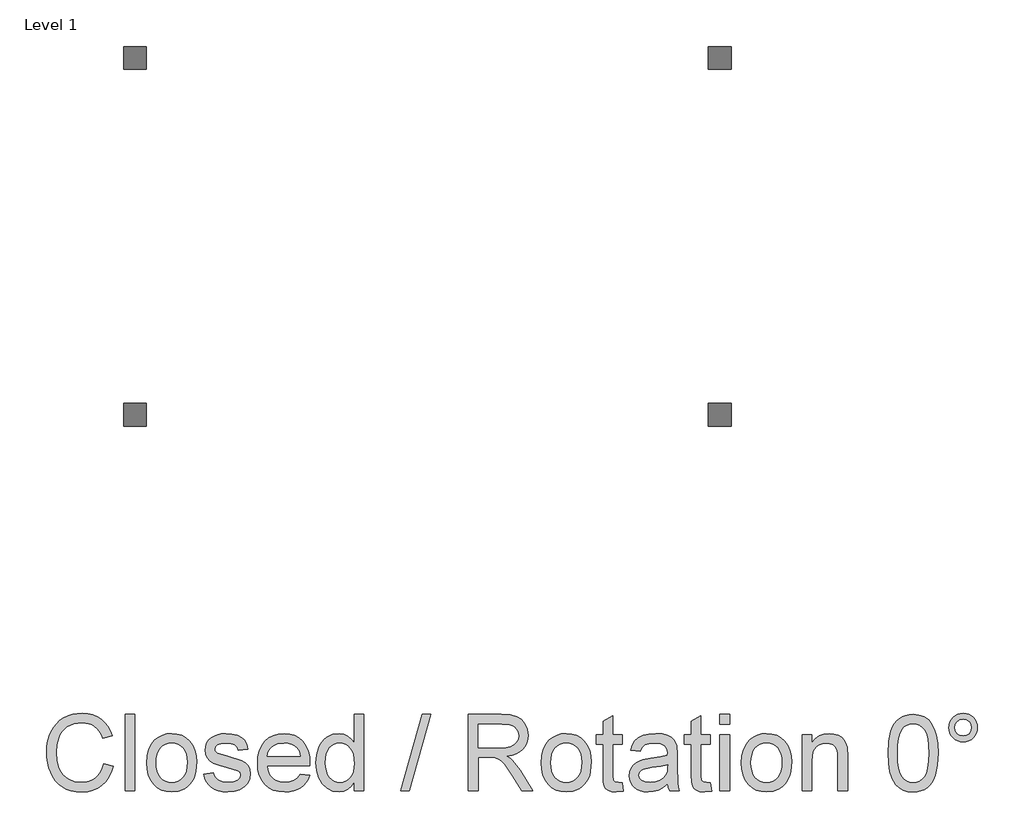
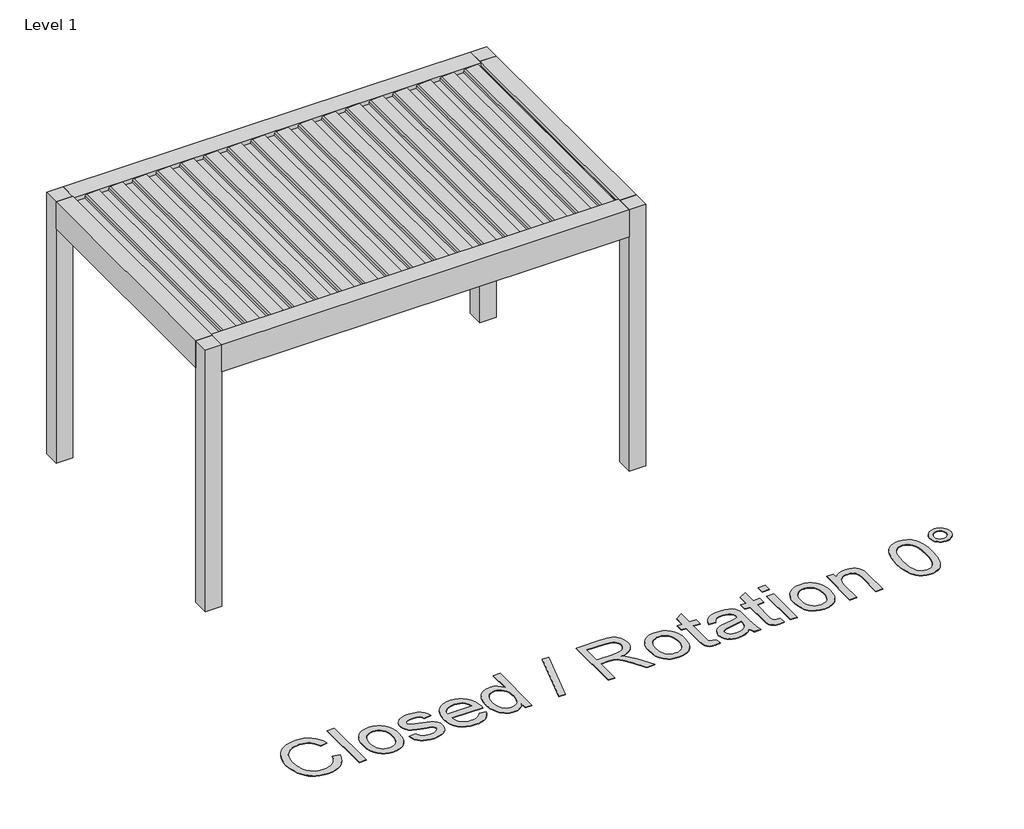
# One storey, part 51 of 69: 2 proxies.
"""IFC4 building model written with IfcOpenShell, lengths in millimetres."""

import ifcopenshell
import ifcopenshell.guid

model = None  # the IFC model being written
_history = None  # IfcOwnerHistory: only IFC2X3 demands one
_inside = {}  # id of a spatial element -> (the spatial element, [elements in it])
_under = {}  # id of a project, library or spatial element -> (it, [spatial elements below it])
_declared = {}  # id of a project -> (the project, [libraries it declares])
_typed = {}  # id of a type object -> (the type object, [elements of that type])
_made_of = {}  # id of a material, layer set ... -> (it, [elements and type objects made of it])


def new_model(schema):
    """Start an empty IFC model of exactly this schema.

    Asked for "IFC4X3", IfcOpenShell would pick the latest addendum, in which some entities
    have other attributes; the version numbers below select the first issue.
    IFC2X3 requires an IfcOwnerHistory on every rooted entity: one is made here for all.
    """
    global model, _history
    if schema == "IFC4X3":
        model = ifcopenshell.file(schema_version=(4, 3, 0, 0))
    else:
        model = ifcopenshell.file(schema=schema)
    _inside.clear()
    _under.clear()
    _declared.clear()
    _typed.clear()
    _made_of.clear()
    _history = None
    if model.schema == "IFC2X3":
        org = make("IfcOrganization", Name="unknown")
        user = make(
            "IfcPersonAndOrganization",
            ThePerson=make("IfcPerson", FamilyName="unknown"),
            TheOrganization=org,
        )
        app = make(
            "IfcApplication",
            ApplicationDeveloper=org,
            Version="unknown",
            ApplicationFullName="unknown",
            ApplicationIdentifier="unknown",
        )
        _history = make(
            "IfcOwnerHistory",
            OwningUser=user,
            OwningApplication=app,
            ChangeAction="ADDED",
            CreationDate=0,
        )
    return model


def make(cls, **values):
    """One entity of the class cls with the attributes given. An attribute that is None is left unset."""
    return model.create_entity(
        cls, **{name: value for name, value in values.items() if value is not None}
    )


def rooted(cls, **values):
    """An entity with a GlobalId (a new one), such as an element, a storey or a relation."""
    return make(cls, GlobalId=ifcopenshell.guid.new(), OwnerHistory=_history, **values)


def si_unit(unit_type, name, prefix=None):
    """IfcSIUnit, for example si_unit("LENGTHUNIT", "METRE", prefix="MILLI")."""
    return make("IfcSIUnit", UnitType=unit_type, Prefix=prefix, Name=name)


def assignment(units):
    """IfcUnitAssignment: the units of a project."""
    return None if units is None else make("IfcUnitAssignment", Units=units)


def point(xyz):
    """IfcCartesianPoint."""
    return None if xyz is None else make("IfcCartesianPoint", Coordinates=xyz)


def direction(xyz):
    """IfcDirection."""
    return None if xyz is None else make("IfcDirection", DirectionRatios=xyz)


def frame(location, z_axis=None, x_axis=None):
    """IfcAxis2Placement3D, a coordinate frame: its origin and axes. An axis left out is left unset."""
    return make(
        "IfcAxis2Placement3D",
        Location=point(location),
        Axis=direction(z_axis),
        RefDirection=direction(x_axis),
    )


def frame_2d(location, x_axis=None):
    """IfcAxis2Placement2D, a coordinate frame in the plane: its origin and x axis."""
    return make(
        "IfcAxis2Placement2D", Location=point(location), RefDirection=direction(x_axis)
    )


def origin():
    """The frame at (0, 0, 0) with its axes left unset."""
    return frame((0.0, 0.0, 0.0))


def origin_with_axes():
    """The frame at (0, 0, 0) with the z axis (0, 0, 1) and the x axis (1, 0, 0) written out."""
    return frame((0.0, 0.0, 0.0), z_axis=(0.0, 0.0, 1.0), x_axis=(1.0, 0.0, 0.0))


def place(relative_to, where):
    """IfcLocalPlacement: puts the frame where relative to a parent placement (None: the world)."""
    return make(
        "IfcLocalPlacement", PlacementRelTo=relative_to, RelativePlacement=where
    )


def context(
    kind, dimensions, precision=None, world=None, true_north=None, identifier=None
):
    """IfcGeometricRepresentationContext, for example the 3D "Model" context."""
    return make(
        "IfcGeometricRepresentationContext",
        ContextIdentifier=identifier,
        ContextType=kind,
        CoordinateSpaceDimension=dimensions,
        Precision=precision,
        WorldCoordinateSystem=world,
        TrueNorth=true_north,
    )


def project(units=None, contexts=None):
    """IfcProject with its units and contexts."""
    return rooted(
        "IfcProject",
        Name="project",
        RepresentationContexts=contexts,
        UnitsInContext=assignment(units),
    )


def spatial(cls, under=None, at=None, **own):
    """A site, building, storey or space (cls), placed at a placement, below another one or the project."""
    s = rooted(cls, ObjectPlacement=at, **own)
    if under is not None:
        _under.setdefault(under.id(), (under, []))[1].append(s)
    return s


def polyline(points):
    """IfcPolyline through the points."""
    return make("IfcPolyline", Points=[point(p) for p in points])


def circle_curve(where, radius):
    """IfcCircle in the frame where."""
    return make("IfcCircle", Position=where, Radius=radius)


def trimmed(basis, trim1, trim2, sense, master):
    """IfcTrimmedCurve: the piece of a basis curve between two trims."""
    return make(
        "IfcTrimmedCurve",
        BasisCurve=basis,
        Trim1=trim1,
        Trim2=trim2,
        SenseAgreement=sense,
        MasterRepresentation=master,
    )


def segment(curve, same_sense, transition):
    """IfcCompositeCurveSegment."""
    return make(
        "IfcCompositeCurveSegment",
        Transition=transition,
        SameSense=same_sense,
        ParentCurve=curve,
    )


def composite_curve(segments, self_intersect=None):
    """IfcCompositeCurve: segments joined end to end."""
    return make("IfcCompositeCurve", Segments=segments, SelfIntersect=self_intersect)


def outline(outer, holes=None, kind="AREA"):
    """IfcArbitraryClosedProfileDef: a profile drawn as a closed curve; with holes, ...WithVoids."""
    if holes is None:
        return make("IfcArbitraryClosedProfileDef", ProfileType=kind, OuterCurve=outer)
    return make(
        "IfcArbitraryProfileDefWithVoids",
        ProfileType=kind,
        OuterCurve=outer,
        InnerCurves=holes,
    )


def extrude(swept, where, along, depth):
    """IfcExtrudedAreaSolid: the profile swept, set in the frame where, extruded along a direction by depth."""
    return make(
        "IfcExtrudedAreaSolid",
        SweptArea=swept,
        Position=where,
        ExtrudedDirection=direction(along),
        Depth=depth,
    )


def shape(context_of_items, identifier, shape_type, items):
    """IfcShapeRepresentation: the items that make up one representation, for example the "Body"."""
    return make(
        "IfcShapeRepresentation",
        ContextOfItems=context_of_items,
        RepresentationIdentifier=identifier,
        RepresentationType=shape_type,
        Items=items,
    )


def source(mapping_origin, context_of_items, identifier, shape_type, items):
    """IfcRepresentationMap: a shape defined once, which mapped items show again and again."""
    return make(
        "IfcRepresentationMap",
        MappingOrigin=mapping_origin,
        MappedRepresentation=shape(context_of_items, identifier, shape_type, items),
    )


def transform(
    local_origin,
    x_axis=None,
    y_axis=None,
    z_axis=None,
    scale=None,
    scale2=None,
    scale3=None,
    uniform=True,
):
    """IfcCartesianTransformationOperator3D, or its non-uniform kind. x_axis, y_axis, z_axis: its Axis1, 2, 3."""
    if uniform:
        return make(
            "IfcCartesianTransformationOperator3D",
            Axis1=direction(x_axis),
            Axis2=direction(y_axis),
            LocalOrigin=point(local_origin),
            Scale=scale,
            Axis3=direction(z_axis),
        )
    return make(
        "IfcCartesianTransformationOperator3DnonUniform",
        Axis1=direction(x_axis),
        Axis2=direction(y_axis),
        LocalOrigin=point(local_origin),
        Scale=scale,
        Axis3=direction(z_axis),
        Scale2=scale2,
        Scale3=scale3,
    )


def mapped(mapping_source, mapping_target):
    """IfcMappedItem: shows the shape of a source again, moved by a transform."""
    return make(
        "IfcMappedItem", MappingSource=mapping_source, MappingTarget=mapping_target
    )


def made_of(thing, what):
    """Note that an element or type object is made of a material, layer set ...; save() writes the relation."""
    if what is not None:
        _made_of.setdefault(what.id(), (what, []))[1].append(thing)
    return thing


def element(
    cls,
    number,
    at=None,
    inside=None,
    cuts=None,
    type_object=None,
    material=None,
    context=None,
    identifier="Body",
    shape_type=None,
    held_by="IfcProductDefinitionShape",
    body=None,
    shapes=None,
    **own,
):
    """One element of the class cls, such as IfcWall. Its Tag is "e" and its number.

    at: its placement. inside: the storey or other place that contains it. cuts: it is an
    opening in that element (IfcRelVoidsElement). A single representation is given by context,
    identifier, shape_type and body (its items); several are given by shapes. held_by: the class
    of the entity that holds the representations. save() writes the other relations.
    """
    e = rooted(cls, Tag="e%d" % number, ObjectPlacement=at, **own)
    if body is not None:
        shapes = [shape(context, identifier, shape_type, body)]
    if shapes is not None:
        e.Representation = make(held_by, Representations=shapes)
    if inside is not None:
        _inside.setdefault(inside.id(), (inside, []))[1].append(e)
    if cuts is not None:
        rooted(
            "IfcRelVoidsElement", RelatingBuildingElement=cuts, RelatedOpeningElement=e
        )
    if type_object is not None:
        _typed.setdefault(type_object.id(), (type_object, []))[1].append(e)
    return made_of(e, material)


def aggregate(whole, parts):
    """IfcRelAggregates: a whole, such as a stair, and the parts it consists of."""
    return rooted("IfcRelAggregates", RelatingObject=whole, RelatedObjects=parts)


def save(model, path):
    """Write the relations noted so far, then the file.

    IfcRelAggregates (storeys below a building ...), IfcRelContainedInSpatialStructure (elements
    in a storey), IfcRelDefinesByType, IfcRelAssociatesMaterial and IfcRelDeclares: one each for
    every whole, place, type object, material and project.
    """
    for whole, parts in _under.values():
        aggregate(whole, parts)
    for where, things in _inside.values():
        rooted(
            "IfcRelContainedInSpatialStructure",
            RelatedElements=things,
            RelatingStructure=where,
        )
    for kind, things in _typed.values():
        rooted("IfcRelDefinesByType", RelatedObjects=things, RelatingType=kind)
    for what, things in _made_of.values():
        rooted("IfcRelAssociatesMaterial", RelatedObjects=things, RelatingMaterial=what)
    for by, libraries in _declared.values():
        rooted("IfcRelDeclares", RelatingContext=by, RelatedDefinitions=libraries)
    model.write(path)


def generic_models_076aa895(model_context):
    return source(origin(), model_context, "Body", "SweptSolid", [
        extrude(outline(composite_curve([segment(polyline([(2458.35, 1573.7338351), (2486.01198, 1576.1539448), (2487.3970364, 1604.9891952), (2506.8911096, 1601.5518641), (2501.6075693, 1491.5547493)]), True, "CONTINUOUS"), segment(trimmed(circle_curve(frame_2d((2486.6248435, 1492.2744212)), 15.0), [point((2501.6075693, 1491.5547493))], [point((2489.2295662, 1477.5023049))], False, "CARTESIAN"), True, "CONTINUOUS"), segment(polyline([(2489.2295662, 1477.5023049), (2470.0, 1474.1116136), (2470.0, 1386.3758376), (2487.0788237, 1383.3643801), (2486.3450182, 1368.0874097), (2458.35, 1365.6381629), (2458.35, 1573.7338351)]), True, "CONTINUOUS")], self_intersect=False)), frame((0.0, -1080.0, 0.0), z_axis=(0.0, 1.0, 0.0), x_axis=(0.0, 0.0, 1.0)), (0.0, 0.0, 1.0), 2160.0),
        extrude(outline(composite_curve([segment(polyline([(2458.35, 1358.7230303), (2486.01198, 1361.14314), (2487.3970364, 1389.9783904), (2506.8911096, 1386.5410594), (2501.6075693, 1276.5439445)]), True, "CONTINUOUS"), segment(trimmed(circle_curve(frame_2d((2486.6248435, 1277.2636164)), 15.0), [point((2501.6075693, 1276.5439445))], [point((2489.2295662, 1262.4915001))], False, "CARTESIAN"), True, "CONTINUOUS"), segment(polyline([(2489.2295662, 1262.4915001), (2470.0, 1259.1008088), (2470.0, 1171.3650328), (2487.0788237, 1168.3535754), (2486.3450182, 1153.0766049), (2458.35, 1150.6273582), (2458.35, 1358.7230303)]), True, "CONTINUOUS")], self_intersect=False)), frame((0.0, -1080.0, 0.0), z_axis=(0.0, 1.0, 0.0), x_axis=(0.0, 0.0, 1.0)), (0.0, 0.0, 1.0), 2160.0),
        extrude(outline(composite_curve([segment(polyline([(2458.35, 1143.7122255), (2486.01198, 1146.1323352), (2487.3970364, 1174.9675857), (2506.8911096, 1171.5302546), (2501.6075693, 1061.5331397)]), True, "CONTINUOUS"), segment(trimmed(circle_curve(frame_2d((2486.6248435, 1062.2528117)), 15.0), [point((2501.6075693, 1061.5331397))], [point((2489.2295662, 1047.4806954))], False, "CARTESIAN"), True, "CONTINUOUS"), segment(polyline([(2489.2295662, 1047.4806954), (2470.0, 1044.090004), (2470.0, 956.354228), (2487.0788237, 953.3427706), (2486.3450182, 938.0658001), (2458.35, 935.6165534), (2458.35, 1143.7122255)]), True, "CONTINUOUS")], self_intersect=False)), frame((0.0, -1080.0, 0.0), z_axis=(0.0, 1.0, 0.0), x_axis=(0.0, 0.0, 1.0)), (0.0, 0.0, 1.0), 2160.0),
        extrude(outline(composite_curve([segment(polyline([(2458.35, 928.7014208), (2486.01198, 931.1215304), (2487.3970364, 959.9567809), (2506.8911096, 956.5194498), (2501.6075693, 846.5223349)]), True, "CONTINUOUS"), segment(trimmed(circle_curve(frame_2d((2486.6248435, 847.2420069)), 15.0), [point((2501.6075693, 846.5223349))], [point((2489.2295662, 832.4698906))], False, "CARTESIAN"), True, "CONTINUOUS"), segment(polyline([(2489.2295662, 832.4698906), (2470.0, 829.0791992), (2470.0, 741.3434232), (2487.0788237, 738.3319658), (2486.3450182, 723.0549953), (2458.35, 720.6057486), (2458.35, 928.7014208)]), True, "CONTINUOUS")], self_intersect=False)), frame((0.0, -1080.0, 0.0), z_axis=(0.0, 1.0, 0.0), x_axis=(0.0, 0.0, 1.0)), (0.0, 0.0, 1.0), 2160.0),
        extrude(outline(composite_curve([segment(polyline([(2458.35, 713.690616), (2486.01198, 716.1107256), (2487.3970364, 744.9459761), (2506.8911096, 741.508645), (2501.6075693, 631.5115302)]), True, "CONTINUOUS"), segment(trimmed(circle_curve(frame_2d((2486.6248435, 632.2312021)), 15.0), [point((2501.6075693, 631.5115302))], [point((2489.2295662, 617.4590858))], False, "CARTESIAN"), True, "CONTINUOUS"), segment(polyline([(2489.2295662, 617.4590858), (2470.0, 614.0683945), (2470.0, 526.3326184), (2487.0788237, 523.321161), (2486.3450182, 508.0441905), (2458.35, 505.5949438), (2458.35, 713.690616)]), True, "CONTINUOUS")], self_intersect=False)), frame((0.0, -1080.0, 0.0), z_axis=(0.0, 1.0, 0.0), x_axis=(0.0, 0.0, 1.0)), (0.0, 0.0, 1.0), 2160.0),
        extrude(outline(composite_curve([segment(polyline([(2458.35, 498.6798112), (2486.01198, 501.0999209), (2487.3970364, 529.9351713), (2506.8911096, 526.4978402), (2501.6075693, 416.5007254)]), True, "CONTINUOUS"), segment(trimmed(circle_curve(frame_2d((2486.6248435, 417.2203973)), 15.0), [point((2501.6075693, 416.5007254))], [point((2489.2295662, 402.448281))], False, "CARTESIAN"), True, "CONTINUOUS"), segment(polyline([(2489.2295662, 402.448281), (2470.0, 399.0575897), (2470.0, 311.3218136), (2487.0788237, 308.3103562), (2486.3450182, 293.0333858), (2458.35, 290.584139), (2458.35, 498.6798112)]), True, "CONTINUOUS")], self_intersect=False)), frame((0.0, -1080.0, 0.0), z_axis=(0.0, 1.0, 0.0), x_axis=(0.0, 0.0, 1.0)), (0.0, 0.0, 1.0), 2160.0),
        extrude(outline(composite_curve([segment(polyline([(2458.35, 283.6690064), (2486.01198, 286.0891161), (2487.3970364, 314.9243665), (2506.8911096, 311.4870355), (2501.6075693, 201.4899206)]), True, "CONTINUOUS"), segment(trimmed(circle_curve(frame_2d((2486.6248435, 202.2095925)), 15.0), [point((2501.6075693, 201.4899206))], [point((2489.2295662, 187.4374762))], False, "CARTESIAN"), True, "CONTINUOUS"), segment(polyline([(2489.2295662, 187.4374762), (2470.0, 184.0467849), (2470.0, 96.3110089), (2487.0788237, 93.2995515), (2486.3450182, 78.022581), (2458.35, 75.5733343), (2458.35, 283.6690064)]), True, "CONTINUOUS")], self_intersect=False)), frame((0.0, -1080.0, 0.0), z_axis=(0.0, 1.0, 0.0), x_axis=(0.0, 0.0, 1.0)), (0.0, 0.0, 1.0), 2160.0),
        extrude(outline(composite_curve([segment(polyline([(2458.35, 68.6582016), (2486.01198, 71.0783113), (2487.3970364, 99.9135617), (2506.8911096, 96.4762307), (2501.6075693, -13.5208842)]), True, "CONTINUOUS"), segment(trimmed(circle_curve(frame_2d((2486.6248435, -12.8012122)), 15.0), [point((2501.6075693, -13.5208842))], [point((2489.2295662, -27.5733285))], False, "CARTESIAN"), True, "CONTINUOUS"), segment(polyline([(2489.2295662, -27.5733285), (2470.0, -30.9640199), (2470.0, -118.6997959), (2487.0788237, -121.7112533), (2486.3450182, -136.9882238), (2458.35, -139.4374705), (2458.35, 68.6582016)]), True, "CONTINUOUS")], self_intersect=False)), frame((0.0, -1080.0, 0.0), z_axis=(0.0, 1.0, 0.0), x_axis=(0.0, 0.0, 1.0)), (0.0, 0.0, 1.0), 2160.0),
        extrude(outline(composite_curve([segment(polyline([(2458.35, -146.3526032), (2486.01198, -143.9324935), (2487.3970364, -115.097243), (2506.8911096, -118.5345741), (2501.6075693, -228.531689)]), True, "CONTINUOUS"), segment(trimmed(circle_curve(frame_2d((2486.6248435, -227.812017)), 15.0), [point((2501.6075693, -228.531689))], [point((2489.2295662, -242.5841333))], False, "CARTESIAN"), True, "CONTINUOUS"), segment(polyline([(2489.2295662, -242.5841333), (2470.0, -245.9748247), (2470.0, -333.7106007), (2487.0788237, -336.7220581), (2486.3450182, -351.9990286), (2458.35, -354.4482753), (2458.35, -146.3526032)]), True, "CONTINUOUS")], self_intersect=False)), frame((0.0, -1080.0, 0.0), z_axis=(0.0, 1.0, 0.0), x_axis=(0.0, 0.0, 1.0)), (0.0, 0.0, 1.0), 2160.0),
        extrude(outline(composite_curve([segment(polyline([(2458.35, -361.3634079), (2486.01198, -358.9432983), (2487.3970364, -330.1080478), (2506.8911096, -333.5453789), (2501.6075693, -443.5424937)]), True, "CONTINUOUS"), segment(trimmed(circle_curve(frame_2d((2486.6248435, -442.8228218)), 15.0), [point((2501.6075693, -443.5424937))], [point((2489.2295662, -457.5949381))], False, "CARTESIAN"), True, "CONTINUOUS"), segment(polyline([(2489.2295662, -457.5949381), (2470.0, -460.9856294), (2470.0, -548.7214055), (2487.0788237, -551.7328629), (2486.3450182, -567.0098334), (2458.35, -569.4590801), (2458.35, -361.3634079)]), True, "CONTINUOUS")], self_intersect=False)), frame((0.0, -1080.0, 0.0), z_axis=(0.0, 1.0, 0.0), x_axis=(0.0, 0.0, 1.0)), (0.0, 0.0, 1.0), 2160.0),
        extrude(outline(composite_curve([segment(polyline([(2458.35, -576.3742127), (2486.01198, -573.9541031), (2487.3970364, -545.1188526), (2506.8911096, -548.5561837), (2501.6075693, -658.5532985)]), True, "CONTINUOUS"), segment(trimmed(circle_curve(frame_2d((2486.6248435, -657.8336266)), 15.0), [point((2501.6075693, -658.5532985))], [point((2489.2295662, -672.6057429))], False, "CARTESIAN"), True, "CONTINUOUS"), segment(polyline([(2489.2295662, -672.6057429), (2470.0, -675.9964342), (2470.0, -763.7322103), (2487.0788237, -766.7436677), (2486.3450182, -782.0206381), (2458.35, -784.4698849), (2458.35, -576.3742127)]), True, "CONTINUOUS")], self_intersect=False)), frame((0.0, -1080.0, 0.0), z_axis=(0.0, 1.0, 0.0), x_axis=(0.0, 0.0, 1.0)), (0.0, 0.0, 1.0), 2160.0),
        extrude(outline(composite_curve([segment(polyline([(2458.35, -791.3850175), (2486.01198, -788.9649078), (2487.3970364, -760.1296574), (2506.8911096, -763.5669885), (2501.6075693, -873.5641033)]), True, "CONTINUOUS"), segment(trimmed(circle_curve(frame_2d((2486.6248435, -872.8444314)), 15.0), [point((2501.6075693, -873.5641033))], [point((2489.2295662, -887.6165477))], False, "CARTESIAN"), True, "CONTINUOUS"), segment(polyline([(2489.2295662, -887.6165477), (2470.0, -891.007239), (2470.0, -978.743015), (2487.0788237, -981.7544725), (2486.3450182, -997.0314429), (2458.35, -999.4806897), (2458.35, -791.3850175)]), True, "CONTINUOUS")], self_intersect=False)), frame((0.0, -1080.0, 0.0), z_axis=(0.0, 1.0, 0.0), x_axis=(0.0, 0.0, 1.0)), (0.0, 0.0, 1.0), 2160.0),
        extrude(outline(composite_curve([segment(polyline([(2458.35, -1006.3958223), (2486.01198, -1003.9757126), (2487.3970364, -975.1404622), (2506.8911096, -978.5777932), (2501.6075693, -1088.5749081)]), True, "CONTINUOUS"), segment(trimmed(circle_curve(frame_2d((2486.6248435, -1087.8552362)), 15.0), [point((2501.6075693, -1088.5749081))], [point((2489.2295662, -1102.6273525))], False, "CARTESIAN"), True, "CONTINUOUS"), segment(polyline([(2489.2295662, -1102.6273525), (2470.0, -1106.0180438), (2470.0, -1193.7538198), (2487.0788237, -1196.7652772), (2486.3450182, -1212.0422477), (2458.35, -1214.4914944), (2458.35, -1006.3958223)]), True, "CONTINUOUS")], self_intersect=False)), frame((0.0, -1080.0, 0.0), z_axis=(0.0, 1.0, 0.0), x_axis=(0.0, 0.0, 1.0)), (0.0, 0.0, 1.0), 2160.0),
        extrude(outline(composite_curve([segment(polyline([(2458.35, -1221.4066271), (2486.01198, -1218.9865174), (2487.3970364, -1190.1512669), (2506.8911096, -1193.588598), (2501.6075693, -1303.5857129)]), True, "CONTINUOUS"), segment(trimmed(circle_curve(frame_2d((2486.6248435, -1302.8660409)), 15.0), [point((2501.6075693, -1303.5857129))], [point((2489.2295662, -1317.6381572))], False, "CARTESIAN"), True, "CONTINUOUS"), segment(polyline([(2489.2295662, -1317.6381572), (2470.0, -1321.0288486), (2470.0, -1408.7646246), (2487.0788237, -1411.776082), (2486.3450182, -1427.0530525), (2458.35, -1429.5022992), (2458.35, -1221.4066271)]), True, "CONTINUOUS")], self_intersect=False)), frame((0.0, -1080.0, 0.0), z_axis=(0.0, 1.0, 0.0), x_axis=(0.0, 0.0, 1.0)), (0.0, 0.0, 1.0), 2160.0),
        extrude(outline(composite_curve([segment(polyline([(2458.35, -1436.4174318), (2486.01198, -1433.9973222), (2487.3970364, -1405.1620717), (2506.8911096, -1408.5994028), (2501.6075693, -1518.5965176)]), True, "CONTINUOUS"), segment(trimmed(circle_curve(frame_2d((2486.6248435, -1517.8768457)), 15.0), [point((2501.6075693, -1518.5965176))], [point((2489.2295662, -1532.648962))], False, "CARTESIAN"), True, "CONTINUOUS"), segment(polyline([(2489.2295662, -1532.648962), (2470.0, -1536.0396534), (2470.0, -1623.7754294), (2487.0788237, -1626.7868868), (2486.3450182, -1642.0638573), (2458.35, -1644.513104), (2458.35, -1436.4174318)]), True, "CONTINUOUS")], self_intersect=False)), frame((0.0, -1080.0, 0.0), z_axis=(0.0, 1.0, 0.0), x_axis=(0.0, 0.0, 1.0)), (0.0, 0.0, 1.0), 2160.0),
        extrude(outline(composite_curve([segment(polyline([(2458.35, 1788.7446399), (2486.01198, 1791.1647495), (2487.3970364, 1820.0), (2506.8911096, 1816.5626689), (2501.6075693, 1706.5655541)]), True, "CONTINUOUS"), segment(trimmed(circle_curve(frame_2d((2486.6248435, 1707.285226)), 15.0), [point((2501.6075693, 1706.5655541))], [point((2489.2295662, 1692.5131097))], False, "CARTESIAN"), True, "CONTINUOUS"), segment(polyline([(2489.2295662, 1692.5131097), (2470.0, 1689.1224184), (2470.0, 1601.3866423), (2487.0788237, 1598.3751849), (2486.3450182, 1583.0982144), (2458.35, 1580.6489677), (2458.35, 1788.7446399)]), True, "CONTINUOUS")], self_intersect=False)), frame((0.0, -1080.0, 0.0), z_axis=(0.0, 1.0, 0.0), x_axis=(0.0, 0.0, 1.0)), (0.0, 0.0, 1.0), 2160.0),
        extrude(outline(composite_curve([segment(polyline([(2458.35, -1651.4282366), (2486.01198, -1649.008127), (2487.3970364, -1620.1728765), (2506.8911096, -1623.6102076), (2501.6075693, -1733.6073224)]), True, "CONTINUOUS"), segment(trimmed(circle_curve(frame_2d((2486.6248435, -1732.8876505)), 15.0), [point((2501.6075693, -1733.6073224))], [point((2489.2295662, -1747.6597668))], False, "CARTESIAN"), True, "CONTINUOUS"), segment(polyline([(2489.2295662, -1747.6597668), (2470.0, -1751.0504581), (2470.0, -1838.7862342), (2487.0788237, -1841.7976916), (2486.3450182, -1857.0746621), (2458.35, -1859.5239088), (2458.35, -1651.4282366)]), True, "CONTINUOUS")], self_intersect=False)), frame((0.0, -1080.0, 0.0), z_axis=(0.0, 1.0, 0.0), x_axis=(0.0, 0.0, 1.0)), (0.0, 0.0, 1.0), 2160.0),
        extrude(outline(polyline([(2441.6559373, -1850.0), (2441.6559373, -1824.0), (2455.6555802, -1820.2487113), (2455.6555802, -1829.5940945), (2471.400763, -1845.0), (2479.2449277, -1845.0), (2479.6823598, -1850.0), (2441.6559373, -1850.0)])), frame((0.0, -1100.0, 0.0), z_axis=(0.0, 1.0, 0.0), x_axis=(0.0, 0.0, 1.0)), (0.0, 0.0, 1.0), 2200.0),
        extrude(outline(polyline([(-1850.0, -1100.0), (-2000.0, -1100.0), (-2000.0, 1100.0), (-1850.0, 1100.0), (-1850.0, -1100.0)])), frame((0.0, 0.0, 2250.0), z_axis=(0.0, 0.0, 1.0), x_axis=(1.0, 0.0, 0.0)), (0.0, 0.0, 1.0), 260.0),
        extrude(outline(polyline([(2510.0, 2000.0), (2510.0, 1850.0), (2479.6904658, 1850.0), (2479.2449277, 1845.0), (2471.400763, 1845.0), (2455.6555802, 1829.2544156), (2455.6555802, 1819.9090324), (2441.6559373, 1823.6603211), (2441.6559373, 1850.0), (2250.0, 1850.0), (2250.0, 2000.0), (2510.0, 2000.0)])), frame((0.0, -1100.0, 0.0), z_axis=(0.0, 1.0, 0.0), x_axis=(0.0, 0.0, 1.0)), (0.0, 0.0, 1.0), 2200.0),
        extrude(outline(polyline([(-1080.0, 2510.0), (-1080.0, 2322.0), (-1020.0, 2322.0), (-1020.0, 2250.0), (-1250.0, 2250.0), (-1250.0, 2510.0), (-1080.0, 2510.0)])), frame((-1850.0, 0.0, 0.0), z_axis=(1.0, 0.0, 0.0), x_axis=(0.0, 1.0, 0.0)), (0.0, 0.0, 1.0), 3700.0),
        extrude(outline(polyline([(1250.0, 2250.0), (1020.0, 2250.0), (1020.0, 2322.0), (1080.0, 2322.0), (1080.0, 2510.0), (1250.0, 2510.0), (1250.0, 2250.0)])), frame((-1850.0, 0.0, 0.0), z_axis=(1.0, 0.0, 0.0), x_axis=(0.0, 1.0, 0.0)), (0.0, 0.0, 1.0), 3700.0),
        extrude(outline(polyline([(-1850.0, 1250.0), (-1850.0, 1100.0), (-2000.0, 1100.0), (-2000.0, 1250.0), (-1850.0, 1250.0)])), origin_with_axes(), (0.0, 0.0, 1.0), 2510.0),
        extrude(outline(polyline([(2000.0, 1250.0), (2000.0, 1100.0), (1850.0, 1100.0), (1850.0, 1250.0), (2000.0, 1250.0)])), origin_with_axes(), (0.0, 0.0, 1.0), 2510.0),
        extrude(outline(polyline([(2000.0, -1100.0), (2000.0, -1250.0), (1850.0, -1250.0), (1850.0, -1100.0), (2000.0, -1100.0)])), origin_with_axes(), (0.0, 0.0, 1.0), 2510.0),
        extrude(outline(polyline([(-1850.0, -1100.0), (-1850.0, -1250.0), (-2000.0, -1250.0), (-2000.0, -1100.0), (-1850.0, -1100.0)])), origin_with_axes(), (0.0, 0.0, 1.0), 2510.0),
    ])


model = new_model("IFC4")

# Units and contexts
model_context = context("Model", 3, world=origin())
ifc_project = project(units=[si_unit("LENGTHUNIT", "METRE", prefix="MILLI")], contexts=[model_context])

# Site, building, storey
site = spatial("IfcSite", under=ifc_project)
building = spatial("IfcBuilding", under=site)
storey = spatial("IfcBuildingStorey", under=building, Name="Level 1", Elevation=0.0)

# Proxies
placement = place(None, origin())
generic_models_shape = generic_models_076aa895(model_context)
element("IfcBuildingElementProxy", 1, Name="Renson_Camargue_Skye_Freestanding_Patio covers : Renson_Camargue_Skye_Freestanding_Patio covers", ObjectType="Renson_Camargue_Skye_Freestanding_Patio covers : Renson_Camargue_Skye_Freestanding_Patio covers", at=placement, inside=storey, context=model_context, shape_type="MappedRepresentation", body=[
    mapped(generic_models_shape, transform((89532.7944478, 67778.5861401, 0.0), x_axis=(1.0, 0.0, 0.0), y_axis=(0.0, 1.0, 0.0), z_axis=(0.0, 0.0, 1.0))),
])
element("IfcBuildingElementProxy", 2, Name="500mm Arial", ObjectType="500mm Arial", at=placement, inside=storey, context=model_context, shape_type="SweptSolid", body=[
    extrude(outline(polyline([(87402.351282, 64307.1315351), (87465.1364758, 64290.9447273), (87452.7127943, 64251.8994185), (87436.1657687, 64217.7821955), (87415.4953991, 64188.5930585), (87390.7016855, 64164.3320073), (87362.344115, 64145.2596251), (87330.9821749, 64131.636495), (87296.6158652, 64123.4626169), (87259.2451859, 64120.7379909), (87220.9586337, 64122.7996629), (87186.4198792, 64128.984679), (87155.6289227, 64139.293039), (87128.5857639, 64153.7247431), (87104.9186889, 64172.0651934), (87084.2559835, 64194.0997921), (87066.5976477, 64219.8285391), (87051.9436816, 64249.2514346), (87040.4358729, 64281.0962198), (87032.2160096, 64314.0906362), (87027.2840916, 64348.2346839), (87025.6401189, 64383.5283628), (87027.4986894, 64421.3972157), (87033.0744009, 64456.7675367), (87042.3672534, 64489.6393258), (87055.3772469, 64520.012583), (87071.8131414, 64547.3853027), (87091.3836972, 64571.2554792), (87114.0889141, 64591.6231126), (87139.9287921, 64608.4882028), (87168.0257795, 64621.7127941), (87197.5023244, 64631.1589308), (87228.3584267, 64636.8266128), (87260.5940865, 64638.7158401), (87296.5047342, 64636.2709577), (87329.4340049, 64628.9363104), (87359.3818985, 64616.7118983), (87386.3484152, 64599.5977213), (87409.8890308, 64578.0459677), (87429.5592212, 64552.5088259), (87445.3589865, 64522.9862958), (87457.2883266, 64489.4783774), (87394.5031328, 64474.5178429), (87384.6163042, 64499.2080898), (87372.7367814, 64520.3038229), (87358.8645645, 64537.8050424), (87342.9996534, 64551.7117483), (87325.0500778, 64562.3075161), (87304.9238669, 64569.8759218), (87282.621021, 64574.4169651), (87258.1415399, 64575.9306463), (87229.9755746, 64574.2521847), (87204.2161708, 64569.2167999), (87180.8633283, 64560.8244918), (87159.9170472, 64549.0752606), (87141.6417426, 64534.4979366), (87126.3018299, 64517.62135), (87113.8973088, 64498.445501), (87104.4281796, 64476.9703896), (87092.4260295, 64431.015797), (87088.4253128, 64383.6509901), (87093.1617935, 64325.6482622), (87107.3712355, 64275.4936835), (87118.1624407, 64253.8384632), (87131.5901336, 64235.1033062), (87147.654314, 64219.2882125), (87166.3549821, 64206.3931821), (87208.0329465, 64189.2406841), (87252.991192, 64183.5231847), (87280.2872696, 64185.4698936), (87305.3990479, 64191.3100203), (87328.3265268, 64201.0435648), (87349.0697064, 64214.670527), (87367.1380773, 64232.1295934), (87382.0411302, 64253.3594502), (87393.7788651, 64278.3600974), (87402.351282, 64307.1315351)])), origin_with_axes(), (0.0, 0.0, 1.0), 5.0),
    extrude(outline(polyline([(87543.6179681, 64128.5861401), (87543.6179681, 64630.8676909), (87606.403162, 64630.8676909), (87606.403162, 64128.5861401), (87543.6179681, 64128.5861401)])), origin_with_axes(), (0.0, 0.0, 1.0), 5.0),
    extrude(outline(polyline([(87684.8846543, 64313.0176471), (87688.2798985, 64360.788657), (87698.4656313, 64401.9531194), (87715.4418525, 64436.5110343), (87739.2085623, 64464.4624017), (87763.1362204, 64482.3276711), (87789.5470819, 64495.0885778), (87818.441147, 64502.7451219), (87849.8184155, 64505.2973032), (87884.4568046, 64502.1894668), (87915.7765915, 64492.8659574), (87943.7777763, 64477.3267753), (87968.4603589, 64455.5719202), (87988.6057303, 64428.3371562), (88002.9952812, 64396.3582474), (88011.6290118, 64359.6351936), (88014.506922, 64318.167995), (88009.4178877, 64254.7390076), (88003.0565949, 64228.7036923), (87994.1507849, 64206.4544958), (87982.8115888, 64187.2364936), (87969.1501377, 64170.2947613), (87953.1664314, 64155.6292989), (87934.86047, 64143.2401063), (87894.1328675, 64126.3635197), (87849.8184155, 64120.7379909), (87814.6741886, 64123.834331), (87783.0631618, 64133.1233514), (87754.9853349, 64148.605052), (87730.440708, 64170.2794329), (87710.5099345, 64197.7786121), (87696.2736677, 64230.7347075), (87687.7319077, 64269.1477191), (87684.8846543, 64313.0176471)]), holes=[polyline([(87747.6698481, 64313.1402744), (87749.4862655, 64282.686543), (87754.9355175, 64256.3178345), (87764.0176043, 64234.0341491), (87776.7325258, 64215.8354867), (87792.198898, 64201.6988546), (87809.535337, 64191.6012602), (87828.7418428, 64185.5427036), (87849.8184155, 64183.5231847), (87870.7876892, 64185.5541999), (87889.9175529, 64191.6472455), (87907.2080067, 64201.8023214), (87922.6590505, 64216.0194277), (87935.373972, 64234.398199), (87944.4560587, 64257.0382701), (87949.9053108, 64283.939641), (87951.7217281, 64315.1023117), (87949.8938145, 64344.5903529), (87944.4100735, 64370.2692825), (87935.2705052, 64392.1391007), (87922.4751095, 64410.1998074), (87906.9665842, 64424.3364395), (87889.6876267, 64434.4340339), (87870.6382371, 64440.4925905), (87849.8184155, 64442.5121094), (87828.7418428, 64440.5002547), (87809.535337, 64434.4646907), (87792.198898, 64424.4054174), (87776.7325258, 64410.3224348), (87764.0176043, 64392.1774218), (87754.9355175, 64369.9320574), (87749.4862655, 64343.5863416), (87747.6698481, 64313.1402744)])]), origin_with_axes(), (0.0, 0.0, 1.0), 5.0),
    extrude(outline(polyline([(88061.5958174, 64238.4602294), (88124.3810112, 64246.3083786), (88134.2831682, 64219.4529929), (88153.4436888, 64199.7099925), (88181.9852003, 64187.5698867), (88220.0303299, 64183.5231847), (88257.6156071, 64187.2326615), (88284.0417971, 64198.3610919), (88299.6767819, 64214.486586), (88304.8884435, 64233.1872541), (88299.6461251, 64249.1901209), (88283.9191698, 64261.3915404), (88219.294566, 64279.2951308), (88161.9969452, 64295.865149), (88124.7488932, 64310.0132774), (88100.8212351, 64325.4489928), (88083.4847961, 64345.881772), (88072.954174, 64370.0086995), (88069.4439666, 64396.52686), (88072.2643952, 64420.8530569), (88080.7256811, 64443.309187), (88094.0614034, 64463.0062022), (88111.5051414, 64479.0550542), (88128.8415804, 64489.1564807), (88151.4203378, 64497.633095), (88177.5246311, 64503.3812511), (88205.4376775, 64505.2973032), (88246.3032358, 64502.2162915), (88281.8345051, 64492.9732564), (88310.4066734, 64478.4725744), (88330.3949285, 64459.6186221), (88343.6386803, 64435.0165137), (88351.9773389, 64403.2713632), (88289.192145, 64395.423214), (88281.2673537, 64415.1815428), (88265.5863837, 64430.0654352), (88241.9959507, 64439.4004408), (88210.3427707, 64442.5121094), (88174.2903352, 64439.5383966), (88150.2553782, 64430.6172582), (88136.7357149, 64417.7413883), (88132.2291604, 64402.9034812), (88134.0992272, 64393.2465788), (88139.7094277, 64384.6320088), (88149.3050164, 64376.9371437), (88163.131248, 64370.7751203), (88217.2099013, 64357.4087411), (88309.3643411, 64327.8555542), (88333.7058665, 64313.7227542), (88352.1612799, 64294.3782926), (88363.795548, 64269.7608558), (88367.6736373, 64239.80913), (88363.1210977, 64208.8457287), (88349.4634786, 64179.7217375), (88327.2219463, 64154.7210902), (88296.9176669, 64136.127721), (88260.3134084, 64124.5854234), (88219.1719386, 64120.7379909), (88185.3804445, 64122.5927293), (88155.8655786, 64128.1569445), (88130.6273409, 64137.4306364), (88109.6657314, 64150.4138052), (88092.5438902, 64167.045137), (88078.8249575, 64187.2633184), (88068.5089332, 64211.0683491), (88061.5958174, 64238.4602294)])), origin_with_axes(), (0.0, 0.0, 1.0), 5.0),
    extrude(outline(polyline([(88696.560141, 64238.4602294), (88758.1190616, 64230.6120801), (88748.6805891, 64205.9563222), (88735.9388429, 64184.2282919), (88719.893823, 64165.4279891), (88700.5455293, 64149.5554139), (88678.0932313, 64136.9477913), (88652.7361984, 64127.9423466), (88624.4744305, 64122.5390798), (88593.3079277, 64120.7379909), (88554.3507573, 64123.8458273), (88519.6395582, 64133.1693367), (88489.1743305, 64148.7085189), (88462.9550741, 64170.4633739), (88441.8708372, 64197.8284294), (88426.8106681, 64230.1982129), (88417.7745666, 64267.5727243), (88414.7625327, 64309.9519638), (88417.8052234, 64353.7682422), (88426.9332954, 64392.3881875), (88442.1467487, 64425.8117996), (88463.4455834, 64454.0390785), (88489.5958619, 64476.4645518), (88519.3636467, 64492.482747), (88552.7489378, 64502.0936642), (88589.7517351, 64505.2973032), (88625.5627481, 64502.1013284), (88657.94786, 64492.5134039), (88686.9070708, 64476.5335297), (88712.4403805, 64454.1617059), (88733.2831948, 64425.9957406), (88748.1709193, 64392.6334422), (88757.103554, 64354.0748106), (88760.0810989, 64310.3198458), (88759.7132169, 64293.397274), (88477.5477266, 64293.397274), (88481.1843934, 64268.3429773), (88488.4155738, 64246.4003491), (88499.241268, 64227.5693895), (88513.6614758, 64211.8500984), (88530.8791196, 64199.4570737), (88550.0971217, 64190.6049132), (88571.3154822, 64185.2936169), (88594.534201, 64183.5231847), (88627.9501489, 64186.8034659), (88656.0931216, 64196.6443092), (88678.9631189, 64213.6588515), (88696.560141, 64238.4602294)]), holes=[polyline([(88477.5477266, 64356.1824678), (88697.295905, 64356.1824678), (88688.8039623, 64389.353161), (88672.157302, 64413.0815497), (88655.0354608, 64425.9574196), (88635.5530435, 64435.1544694), (88613.71005, 64440.6726994), (88589.5064804, 64442.5121094), (88547.1847226, 64436.6413258), (88528.7714623, 64429.3028465), (88512.1899478, 64419.0289753), (88498.2755777, 64406.2948933), (88487.8637509, 64391.5757814), (88480.9544671, 64374.8716396), (88477.5477266, 64356.1824678)])]), origin_with_axes(), (0.0, 0.0, 1.0), 5.0),
    extrude(outline(polyline([(89050.4626204, 64128.5861401), (89050.4626204, 64187.8151414), (89031.677646, 64158.468888), (89008.9226118, 64137.5072785), (88982.1975177, 64124.9303128), (88951.5023637, 64120.7379909), (88910.9127169, 64126.8080438), (88873.7566354, 64145.0182026), (88842.3027248, 64174.0962086), (88818.8195908, 64212.7698034), (88804.1962815, 64259.4754883), (88799.321845, 64312.6497651), (88803.813071, 64365.1649199), (88817.2867491, 64412.5910404), (88827.3881756, 64433.7212625), (88839.7275508, 64452.2303254), (88854.3048749, 64468.1182291), (88871.1201477, 64481.3849735), (88909.0886353, 64499.3192208), (88951.257109, 64505.2973032), (88981.9752556, 64501.020675), (89009.1372096, 64488.1907904), (89032.1604911, 64468.5244321), (89050.4626204, 64443.7383827), (89050.4626204, 64630.8676909), (89113.2478142, 64630.8676909), (89113.2478142, 64128.5861401), (89050.4626204, 64128.5861401)]), holes=[polyline([(88862.1070389, 64312.8950197), (88863.877471, 64282.4489525), (88869.1887673, 64256.1032367), (88878.0409278, 64233.8578723), (88890.4339525, 64215.7128593), (88905.2335386, 64201.6298767), (88921.3053833, 64191.5706034), (88938.6494865, 64185.5350394), (88957.2658483, 64183.5231847), (88975.9703485, 64185.4430689), (88993.2109849, 64191.2027214), (89008.9877575, 64200.8021422), (89023.3006664, 64214.2413313), (89035.1840213, 64231.6275877), (89043.6721319, 64253.0682103), (89048.7649983, 64278.5631989), (89050.4626204, 64308.1125538), (89048.7343414, 64340.509162), (89043.5495046, 64368.2919168), (89034.9081098, 64391.4608183), (89022.8101571, 64410.0158664), (89008.1830157, 64424.2329727), (88991.9540547, 64434.3880486), (88974.1232743, 64440.4810942), (88954.6906743, 64442.5121094), (88935.7064305, 64440.5615684), (88918.3623273, 64434.7099454), (88902.6583646, 64424.9572404), (88888.5945425, 64411.3034534), (88877.0062597, 64393.4496804), (88868.7289148, 64371.097017), (88863.7625078, 64344.2454635), (88862.1070389, 64312.8950197)])]), origin_with_axes(), (0.0, 0.0, 1.0), 5.0),
    extrude(outline(polyline([(89356.5404404, 64128.5861401), (89497.8071265, 64630.8676909), (89554.4609538, 64630.8676909), (89413.1942676, 64128.5861401), (89356.5404404, 64128.5861401)])), origin_with_axes(), (0.0, 0.0, 1.0), 5.0),
    extrude(outline(polyline([(89803.8849465, 64128.5861401), (89803.8849465, 64630.8676909), (90020.322187, 64630.8676909), (90078.4935275, 64627.4801108), (90120.8152854, 64617.3173707), (90151.7480298, 64598.555389), (90175.75233, 64569.370084), (90191.1573885, 64533.1796927), (90196.292408, 64493.402452), (90194.1655903, 64467.6047271), (90187.7851369, 64443.9223237), (90177.151048, 64422.3552417), (90162.2633235, 64402.9034812), (90142.9303582, 64386.187843), (90118.960547, 64372.8291281), (90090.3538897, 64362.8273364), (90057.1103865, 64356.1824678), (90077.8037488, 64342.6628045), (90092.7949401, 64329.3270822), (90143.6852827, 64264.7024784), (90227.4397503, 64128.5861401), (90154.4764879, 64128.5861401), (90089.1161201, 64232.6967448), (90041.9045974, 64301.6133052), (90024.3535605, 64321.7088592), (90008.7339042, 64334.1708618), (89978.8741489, 64346.1270266), (89942.4538314, 64348.3343186), (89866.6701404, 64348.3343186), (89866.6701404, 64128.5861401), (89803.8849465, 64128.5861401)]), holes=[polyline([(89866.6701404, 64411.1195124), (90007.2010625, 64411.1195124), (90047.5607831, 64413.3421328), (90078.8767379, 64420.009994), (90102.4518424, 64431.56762), (90119.589012, 64448.4595349), (90130.0276637, 64468.8923141), (90133.5072142, 64491.0725327), (90131.8479131, 64507.129049), (90126.8700099, 64521.6987088), (90118.5735045, 64534.7815123), (90106.9583969, 64546.3774593), (90091.7564398, 64555.8734133), (90072.6993861, 64562.6562376), (90023.0199883, 64568.082497), (89866.6701404, 64568.082497), (89866.6701404, 64411.1195124)])]), origin_with_axes(), (0.0, 0.0, 1.0), 5.0),
    extrude(outline(polyline([(90282.6220496, 64313.0176471), (90286.0172938, 64360.788657), (90296.2030266, 64401.9531194), (90313.1792478, 64436.5110343), (90336.9459575, 64464.4624017), (90360.8736156, 64482.3276711), (90387.2844772, 64495.0885778), (90416.1785422, 64502.7451219), (90447.5558107, 64505.2973032), (90482.1941999, 64502.1894668), (90513.5139868, 64492.8659574), (90541.5151716, 64477.3267753), (90566.1977542, 64455.5719202), (90586.3431255, 64428.3371562), (90600.7326765, 64396.3582474), (90609.3664071, 64359.6351936), (90612.2443173, 64318.167995), (90607.155283, 64254.7390076), (90600.7939902, 64228.7036923), (90591.8881802, 64206.4544958), (90580.5489841, 64187.2364936), (90566.8875329, 64170.2947613), (90550.9038267, 64155.6292989), (90532.5978653, 64143.2401063), (90491.8702627, 64126.3635197), (90447.5558107, 64120.7379909), (90412.4115839, 64123.834331), (90380.800557, 64133.1233514), (90352.7227302, 64148.605052), (90328.1781033, 64170.2794329), (90308.2473298, 64197.7786121), (90294.011063, 64230.7347075), (90285.4693029, 64269.1477191), (90282.6220496, 64313.0176471)]), holes=[polyline([(90345.4072434, 64313.1402744), (90347.2236608, 64282.686543), (90352.6729128, 64256.3178345), (90361.7549996, 64234.0341491), (90374.469921, 64215.8354867), (90389.9362932, 64201.6988546), (90407.2727323, 64191.6012602), (90426.4792381, 64185.5427036), (90447.5558107, 64183.5231847), (90468.5250845, 64185.5541999), (90487.6549482, 64191.6472455), (90504.945402, 64201.8023214), (90520.3964458, 64216.0194277), (90533.1113672, 64234.398199), (90542.193454, 64257.0382701), (90547.6427061, 64283.939641), (90549.4591234, 64315.1023117), (90547.6312097, 64344.5903529), (90542.1474688, 64370.2692825), (90533.0079004, 64392.1391007), (90520.2125048, 64410.1998074), (90504.7039794, 64424.3364395), (90487.425022, 64434.4340339), (90468.3756324, 64440.4925905), (90447.5558107, 64442.5121094), (90426.4792381, 64440.5002547), (90407.2727323, 64434.4646907), (90389.9362932, 64424.4054174), (90374.469921, 64410.3224348), (90361.7549996, 64392.1774218), (90352.6729128, 64369.9320574), (90347.2236608, 64343.5863416), (90345.4072434, 64313.1402744)])]), origin_with_axes(), (0.0, 0.0, 1.0), 5.0),
    extrude(outline(polyline([(90816.2961972, 64180.9480108), (90824.1443465, 64126.7467302), (90777.1780784, 64120.7379909), (90747.0424116, 64123.3438217), (90724.5709531, 64131.1613141), (90708.6907137, 64143.2094494), (90698.3287041, 64158.5072091), (90692.6265332, 64184.7801149), (90690.7258096, 64229.7536888), (90690.7258096, 64434.6639601), (90643.6369142, 64434.6639601), (90643.6369142, 64497.449154), (90690.7258096, 64497.449154), (90690.7258096, 64587.0897335), (90753.5110034, 64624.0005603), (90753.5110034, 64497.449154), (90816.2961972, 64497.449154), (90816.2961972, 64434.6639601), (90753.5110034, 64434.6639601), (90753.5110034, 64231.5930988), (90756.8219414, 64199.2194832), (90767.5518329, 64187.7538277), (90788.9503023, 64183.5231847), (90816.2961972, 64180.9480108)])), origin_with_axes(), (0.0, 0.0, 1.0), 5.0),
    extrude(outline(polyline([(91114.525868, 64175.6750355), (91084.528157, 64149.9539527), (91053.6413978, 64133.1233514), (91021.1604833, 64123.834331), (90986.3803063, 64120.7379909), (90958.4251068, 64122.6003935), (90933.9111368, 64128.1876013), (90912.8383962, 64137.4996143), (90895.2068852, 64150.5364325), (90881.284851, 64166.4703214), (90871.3405408, 64184.4735466), (90865.3739547, 64204.5461079), (90863.3850926, 64226.6880055), (90866.3894623, 64252.7156567), (90875.4025711, 64276.3520749), (90889.3054449, 64296.5855846), (90906.9791091, 64312.4045104), (90927.7491134, 64324.3606752), (90950.9410075, 64333.0059021), (91005.2649154, 64342.4482067), (91069.4603236, 64352.3810205), (91114.157986, 64364.030617), (91114.525868, 64378.0101329), (91110.2032546, 64406.0304782), (91097.2354142, 64424.3632643), (91084.160275, 64432.303384), (91068.2340503, 64437.9748981), (91027.8283445, 64442.5121094), (90990.4270083, 64439.4924113), (90964.3073866, 64430.4333172), (90946.4957667, 64413.679358), (90934.0184357, 64387.5750647), (90871.2332419, 64395.423214), (90882.131746, 64429.7588669), (90898.3951958, 64456.7368798), (90921.5411047, 64477.3689284), (90953.0869858, 64492.666688), (90991.66861, 64502.1396494), (91035.9217484, 64505.2973032), (91078.3661336, 64502.5075314), (91112.0120077, 64494.138216), (91137.3805369, 64481.5535861), (91154.9928875, 64466.1178707), (91166.6731408, 64447.0339922), (91174.2453785, 64423.5048729), (91177.3110618, 64368.5678283), (91177.3110618, 64290.454218), (91180.4993725, 64181.3772064), (91185.2205247, 64154.4145219), (91193.0073603, 64128.5861401), (91130.2221665, 64128.5861401), (91120.1667253, 64150.4138052), (91114.525868, 64175.6750355)]), holes=[polyline([(91114.525868, 64301.2454232), (91072.3420659, 64290.7914432), (91013.235692, 64281.9929321), (90959.2183524, 64271.8148636), (90945.1621945, 64264.8557625), (90934.7541997, 64255.2601738), (90928.3162648, 64243.7638615), (90926.1702865, 64231.1025895), (90930.8454535, 64212.4325782), (90944.8709546, 64197.1348186), (90967.9402213, 64186.9260932), (90999.7466855, 64183.5231847), (91033.4692017, 64187.2786468), (91063.2676433, 64198.5450329), (91087.4252277, 64215.1457079), (91104.2251721, 64234.9040367), (91111.6747825, 64255.2601738), (91114.157986, 64283.4644601), (91114.525868, 64301.2454232)])]), origin_with_axes(), (0.0, 0.0, 1.0), 5.0),
    extrude(outline(polyline([(91397.0592403, 64180.9480108), (91404.9073895, 64126.7467302), (91357.9411215, 64120.7379909), (91327.8054547, 64123.3438217), (91305.3339962, 64131.1613141), (91289.4537567, 64143.2094494), (91279.0917472, 64158.5072091), (91273.3895762, 64184.7801149), (91271.4888526, 64229.7536888), (91271.4888526, 64434.6639601), (91224.3999572, 64434.6639601), (91224.3999572, 64497.449154), (91271.4888526, 64497.449154), (91271.4888526, 64587.0897335), (91334.2740465, 64624.0005603), (91334.2740465, 64497.449154), (91397.0592403, 64497.449154), (91397.0592403, 64434.6639601), (91334.2740465, 64434.6639601), (91334.2740465, 64231.5930988), (91337.5849844, 64199.2194832), (91348.3148759, 64187.7538277), (91369.7133453, 64183.5231847), (91397.0592403, 64180.9480108)])), origin_with_axes(), (0.0, 0.0, 1.0), 5.0),
    extrude(outline(polyline([(91459.8444341, 64128.5861401), (91459.8444341, 64497.449154), (91522.629628, 64497.449154), (91522.629628, 64128.5861401), (91459.8444341, 64128.5861401)])), origin_with_axes(), (0.0, 0.0, 1.0), 5.0),
    extrude(outline(polyline([(91459.8444341, 64568.082497), (91459.8444341, 64630.8676909), (91522.629628, 64630.8676909), (91522.629628, 64568.082497), (91459.8444341, 64568.082497)])), origin_with_axes(), (0.0, 0.0, 1.0), 5.0),
    extrude(outline(polyline([(91601.1111203, 64313.0176471), (91604.5063645, 64360.788657), (91614.6920973, 64401.9531194), (91631.6683185, 64436.5110343), (91655.4350282, 64464.4624017), (91679.3626863, 64482.3276711), (91705.7735479, 64495.0885778), (91734.667613, 64502.7451219), (91766.0448815, 64505.2973032), (91800.6832706, 64502.1894668), (91832.0030575, 64492.8659574), (91860.0042423, 64477.3267753), (91884.6868249, 64455.5719202), (91904.8321962, 64428.3371562), (91919.2217472, 64396.3582474), (91927.8554778, 64359.6351936), (91930.733388, 64318.167995), (91925.6443537, 64254.7390076), (91919.2830609, 64228.7036923), (91910.3772509, 64206.4544958), (91899.0380548, 64187.2364936), (91885.3766036, 64170.2947613), (91869.3928974, 64155.6292989), (91851.086936, 64143.2401063), (91810.3593335, 64126.3635197), (91766.0448815, 64120.7379909), (91730.9006546, 64123.834331), (91699.2896277, 64133.1233514), (91671.2118009, 64148.605052), (91646.667174, 64170.2794329), (91626.7364005, 64197.7786121), (91612.5001337, 64230.7347075), (91603.9583736, 64269.1477191), (91601.1111203, 64313.0176471)]), holes=[polyline([(91663.8963141, 64313.1402744), (91665.7127315, 64282.686543), (91671.1619835, 64256.3178345), (91680.2440703, 64234.0341491), (91692.9589917, 64215.8354867), (91708.425364, 64201.6988546), (91725.761803, 64191.6012602), (91744.9683088, 64185.5427036), (91766.0448815, 64183.5231847), (91787.0141552, 64185.5541999), (91806.1440189, 64191.6472455), (91823.4344727, 64201.8023214), (91838.8855165, 64216.0194277), (91851.600438, 64234.398199), (91860.6825247, 64257.0382701), (91866.1317768, 64283.939641), (91867.9481941, 64315.1023117), (91866.1202805, 64344.5903529), (91860.6365395, 64370.2692825), (91851.4969711, 64392.1391007), (91838.7015755, 64410.1998074), (91823.1930501, 64424.3364395), (91805.9140927, 64434.4340339), (91786.8647031, 64440.4925905), (91766.0448815, 64442.5121094), (91744.9683088, 64440.5002547), (91725.761803, 64434.4646907), (91708.425364, 64424.4054174), (91692.9589917, 64410.3224348), (91680.2440703, 64392.1774218), (91671.1619835, 64369.9320574), (91665.7127315, 64343.5863416), (91663.8963141, 64313.1402744)])]), origin_with_axes(), (0.0, 0.0, 1.0), 5.0),
    extrude(outline(polyline([(92001.366731, 64128.5861401), (92001.366731, 64497.449154), (92064.1519249, 64497.449154), (92064.1519249, 64445.9456746), (92085.9642615, 64471.9120121), (92112.1605253, 64490.4593961), (92142.7407161, 64501.5878264), (92177.7048341, 64505.2973032), (92208.6529069, 64502.308262), (92236.9951489, 64493.3411384), (92260.6315671, 64479.5149067), (92277.4621684, 64461.9485414), (92288.8818387, 64440.6880278), (92296.2854638, 64415.779351), (92299.5964018, 64355.0788218), (92299.5964018, 64128.5861401), (92236.811208, 64128.5861401), (92236.811208, 64346.6175359), (92235.0024548, 64379.083122), (92229.5761954, 64402.1677172), (92219.5667394, 64418.7070786), (92204.0083967, 64431.5369632), (92184.0661269, 64439.7683228), (92160.9048896, 64442.5121094), (92141.8401716, 64440.9716035), (92124.1320185, 64436.3500859), (92107.7804302, 64428.6475567), (92092.7854068, 64417.8640157), (92080.2582585, 64402.7731897), (92071.3102954, 64382.1488053), (92065.9415175, 64355.9908626), (92064.1519249, 64324.2993616), (92064.1519249, 64128.5861401), (92001.366731, 64128.5861401)])), origin_with_axes(), (0.0, 0.0, 1.0), 5.0),
    extrude(outline(polyline([(92566.4334756, 64375.6802136), (92571.047329, 64456.0777579), (92584.8888891, 64520.196524), (92595.2355702, 64546.3966198), (92607.8202001, 64569.0175304), (92622.6427788, 64588.0592558), (92639.7033063, 64603.5217959), (92659.0592642, 64615.485625), (92680.768134, 64624.0312171), (92704.8299158, 64629.1585724), (92731.2446095, 64630.8676909), (92769.9335326, 64626.8209889), (92804.5757538, 64614.6808831), (92833.546461, 64594.9225543), (92855.2208418, 64568.0211834), (92871.5915906, 64534.2066967), (92884.6514015, 64493.7090203), (92893.2046578, 64442.2821831), (92896.0557433, 64375.6802136), (92891.4878752, 64295.7425217), (92877.7842709, 64231.7770398), (92867.518064, 64205.5654476), (92854.9909156, 64182.9100481), (92840.2028258, 64163.8108412), (92823.1537946, 64148.2678269), (92803.7748441, 64136.2235236), (92781.9969964, 64127.6204499), (92757.8202515, 64122.4586057), (92731.2446095, 64120.7379909), (92696.6637019, 64123.7270321), (92666.006869, 64132.6941557), (92639.2741107, 64147.6393618), (92616.465427, 64168.5626503), (92594.5764483, 64206.3855179), (92578.9414635, 64253.5127343), (92569.5604726, 64309.9442995), (92566.4334756, 64375.6802136)]), holes=[polyline([(92629.2186695, 64375.8028409), (92631.0580794, 64321.222182), (92636.5763094, 64277.0418536), (92645.7733593, 64243.2618558), (92658.6492291, 64219.8821886), (92674.2229002, 64203.9751244), (92691.513354, 64192.6129357), (92710.5205904, 64185.7956225), (92731.2446095, 64183.5231847), (92751.9686285, 64185.8032867), (92770.9758649, 64192.6435925), (92788.2663187, 64204.0441023), (92803.8399899, 64220.0048159), (92816.7158597, 64243.4228042), (92825.9129096, 64277.1951378), (92831.4311395, 64321.3218167), (92833.2705495, 64375.8028409), (92831.4924532, 64428.9387966), (92826.1581642, 64472.3412078), (92817.2676827, 64506.0100746), (92804.8210085, 64529.9453969), (92789.5079205, 64546.6303782), (92772.0181973, 64558.548222), (92752.3518389, 64565.6989283), (92730.5088455, 64568.082497), (92709.8921253, 64565.982504), (92691.2067857, 64559.6825248), (92674.4528265, 64549.1825595), (92659.6302477, 64534.4826081), (92646.3251822, 64508.4243002), (92636.821564, 64473.2915696), (92631.1193931, 64429.0844165), (92629.2186695, 64375.8028409)])]), origin_with_axes(), (0.0, 0.0, 1.0), 5.0),
    extrude(outline(polyline([(92966.6890864, 64544.6606767), (92968.4173653, 64563.4916363), (92973.6022022, 64580.8663964), (92982.243597, 64596.7849569), (92994.3415497, 64611.2473178), (93008.8613922, 64623.2647963), (93024.7684564, 64631.8487095), (93042.0627422, 64636.9990575), (93060.7442498, 64638.7158401), (93079.6825084, 64636.9990575), (93097.1339105, 64631.8487095), (93113.0984563, 64623.2647963), (93127.5761456, 64611.2473178), (93139.5936241, 64596.7849569), (93148.1775373, 64580.8663964), (93153.3278853, 64563.4916363), (93155.0446679, 64544.6606767), (93153.316389, 64525.8718702), (93148.1315521, 64508.5009422), (93139.4901573, 64492.5478928), (93127.3922046, 64478.0127219), (93112.8570337, 64465.9147692), (93096.9039843, 64457.2733744), (93079.5330563, 64452.0885375), (93060.7442498, 64450.3602586), (93042.0627422, 64452.0770412), (93024.7684564, 64457.2273892), (93008.8613922, 64465.8113024), (92994.3415497, 64477.8287809), (92982.243597, 64492.3064702), (92973.6022022, 64508.271016), (92968.4173653, 64525.7224181), (92966.6890864, 64544.6606767)]), holes=[polyline([(93005.9298325, 64544.5380493), (93009.9612061, 64523.4154915), (93022.0553267, 64505.6651852), (93039.8516182, 64493.6170498), (93060.9895045, 64489.6010047), (93081.9434498, 64493.6170498), (93099.6784276, 64505.6651852), (93111.7725482, 64523.4154915), (93115.8039218, 64544.5380493), (93111.7725482, 64565.6606072), (93099.6784276, 64583.4109135), (93081.9434498, 64595.4590488), (93060.9895045, 64599.475094), (93039.8516182, 64595.4590488), (93022.0553267, 64583.4109135), (93009.9612061, 64565.6606072), (93005.9298325, 64544.5380493)])]), origin_with_axes(), (0.0, 0.0, 1.0), 5.0),
])

save(model, "model.ifc")
